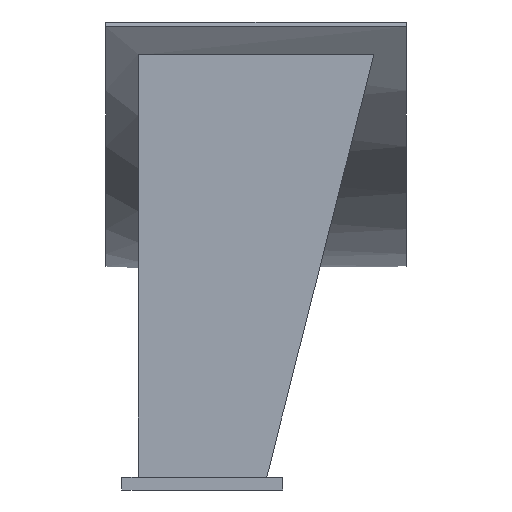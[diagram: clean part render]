
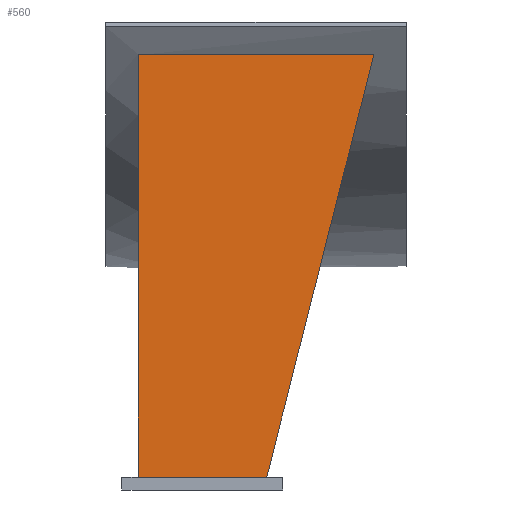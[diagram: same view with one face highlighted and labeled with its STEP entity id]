
A CAD part, front view. The second image highlights one B-rep face of the part: STEP entity #560.
In plain terms, the highlighted planar face has unit normal (0, -1, 0).
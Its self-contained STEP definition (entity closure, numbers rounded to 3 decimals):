
#49=FACE_OUTER_BOUND('',#79,.T.);
#79=EDGE_LOOP('',(#414,#415,#416,#417));
#128=LINE('',#866,#194);
#132=LINE('',#874,#198);
#133=LINE('',#876,#199);
#134=LINE('',#877,#200);
#194=VECTOR('',#706,10.);
#198=VECTOR('',#712,10.);
#199=VECTOR('',#713,10.);
#200=VECTOR('',#714,10.);
#260=VERTEX_POINT('',#864);
#261=VERTEX_POINT('',#865);
#264=VERTEX_POINT('',#873);
#265=VERTEX_POINT('',#875);
#318=EDGE_CURVE('',#260,#261,#128,.T.);
#322=EDGE_CURVE('',#264,#261,#132,.T.);
#323=EDGE_CURVE('',#265,#264,#133,.T.);
#324=EDGE_CURVE('',#260,#265,#134,.T.);
#414=ORIENTED_EDGE('',*,*,#318,.T.);
#415=ORIENTED_EDGE('',*,*,#322,.F.);
#416=ORIENTED_EDGE('',*,*,#323,.F.);
#417=ORIENTED_EDGE('',*,*,#324,.F.);
#532=PLANE('',#618);
#560=ADVANCED_FACE('',(#49),#532,.T.);
#618=AXIS2_PLACEMENT_3D('',#872,#710,#711);
#706=DIRECTION('',(0.246,0.,0.969));
#710=DIRECTION('center_axis',(0.,-1.,0.));
#711=DIRECTION('ref_axis',(0.,0.,
-1.));
#712=DIRECTION('',(1.,0.,0.));
#713=DIRECTION('',(0.,0.,1.));
#714=DIRECTION('',(-1.,0.,0.));
#864=CARTESIAN_POINT('',(60.,-379.,12.));
#865=CARTESIAN_POINT('',(160.,-379.,406.383));
#866=CARTESIAN_POINT('',(103.355,-379.,182.985));
#872=CARTESIAN_POINT('Origin',(-60.,-379.,406.383));
#873=CARTESIAN_POINT('',(-60.,-379.,406.383));
#874=CARTESIAN_POINT('',(-60.,-379.,406.383));
#875=CARTESIAN_POINT('',(-60.,-379.,12.));
#876=CARTESIAN_POINT('',(-60.,-379.,12.));
#877=CARTESIAN_POINT('',(-30.,-379.,12.));
